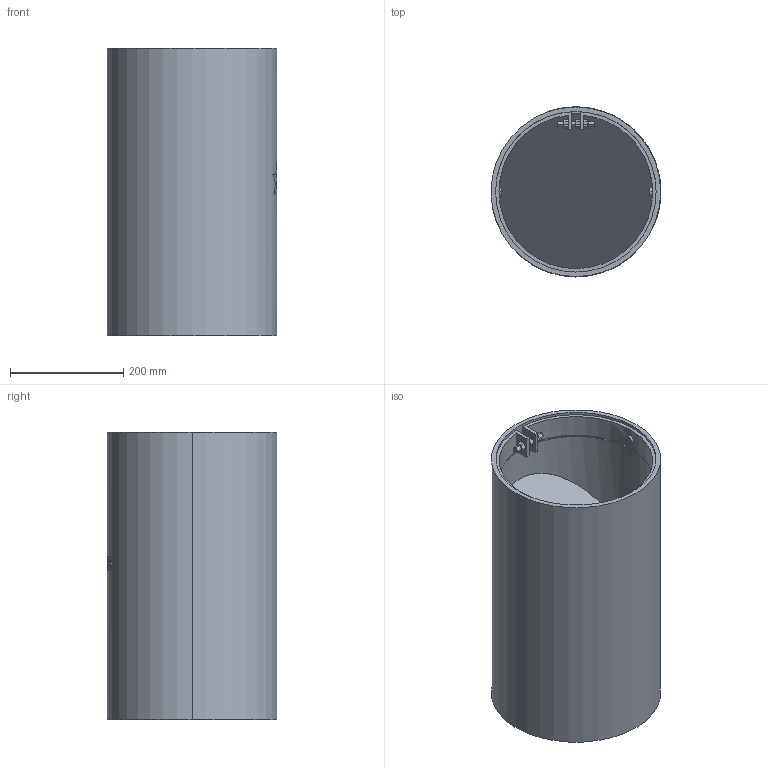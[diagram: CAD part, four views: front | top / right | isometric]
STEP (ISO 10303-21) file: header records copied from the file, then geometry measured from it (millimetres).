
FILE_DESCRIPTION (( 'STEP AP214' ), '1' );
FILE_NAME ('CF-IL-G5-PRO-S0300-NN-316-IDP.STEP', '2023-02-13T16:00:15', ( '' ), ( '' ), 'SwSTEP 2.0', 'SolidWorks 2022', '' );
FILE_SCHEMA (( 'AUTOMOTIVE_DESIGN' ));
Length unit declared in the file: millimetre
Products named in the file (3): Clamp 300_300; CF-IL-G5-PRO-S0300-NN-316-IDP; CF-IL-G5-PRO-S0300-NN-316-IDP_CM-0100-B
Assembly tree (2 placements, depth 2):
  CF-IL-G5-PRO-S0300-NN-316-IDP
    CF-IL-G5-PRO-S0300-NN-316-IDP_CM-0100-B
    Clamp 300_300
Bounding box: 300.5 x 300.5 x 508 mm (x, y, z)
Volume: 5381909.9 mm3; surface area: 1201807.9 mm2
Topology: 6 solids, 6 shells, 1666 faces, 4828 edges, 3211 vertices
Faces by surface type: plane 719, bspline 670, cylinder 142, cone 135
Entity records: 75328 total; most frequent: CARTESIAN_POINT 22685, ORIENTED_EDGE 9656, DIRECTION 4865, EDGE_CURVE 4828, VERTEX_POINT 3211, B_SPLINE_CURVE_WITH_KNOTS 2275, VECTOR 2193, LINE 2193
